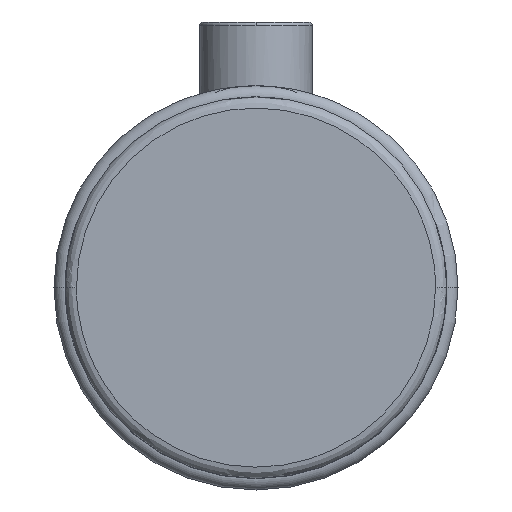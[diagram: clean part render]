
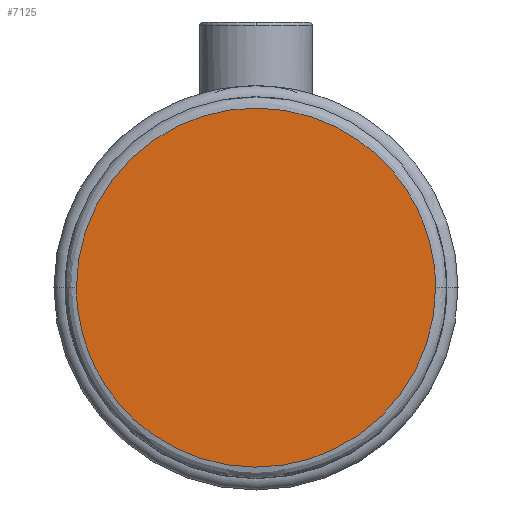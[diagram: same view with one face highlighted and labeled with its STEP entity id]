
A CAD part, top view. The second image highlights one B-rep face of the part: STEP entity #7125.
In plain terms, the highlighted planar face has unit normal (0, 0, 1).
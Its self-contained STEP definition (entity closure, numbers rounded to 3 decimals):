
#1433 = EDGE_LOOP ( 'NONE', ( #5816, #11171 ) ) ;
#1884 = CARTESIAN_POINT ( 'NONE',  ( -47.8, 0., 50. ) ) ;
#1997 = CARTESIAN_POINT ( 'NONE',  ( 47.8, 0., 50. ) ) ;
#2369 = VERTEX_POINT ( 'NONE', #1884 ) ;
#2476 = CARTESIAN_POINT ( 'NONE',  ( 0., 25.4, 50. ) ) ;
#3475 = DIRECTION ( 'NONE',  ( 0., 0., 1. ) ) ;
#3916 =( BOUNDED_CURVE ( )  B_SPLINE_CURVE ( 3, ( #1997, #8029, #11064, #5032 ),
 .UNSPECIFIED., .F., .T. ) 
 B_SPLINE_CURVE_WITH_KNOTS ( ( 4, 4 ),
 ( 0.25, 0.75 ),
 .UNSPECIFIED. ) 
 CURVE ( )  GEOMETRIC_REPRESENTATION_ITEM ( )  RATIONAL_B_SPLINE_CURVE ( ( 1., 0.333, 0.333, 1. ) ) 
 REPRESENTATION_ITEM ( '' )  );
#4358 = PLANE ( 'NONE',  #10416 ) ;
#4813 = CARTESIAN_POINT ( 'NONE',  ( 47.8, 0., 50. ) ) ;
#5032 = CARTESIAN_POINT ( 'NONE',  ( -47.8, 0., 50. ) ) ;
#5341 = EDGE_CURVE ( 'NONE', #10412, #2369, #3916, .T. ) ;
#5816 = ORIENTED_EDGE ( 'NONE', *, *, #5341, .F. ) ;
#6780 = CARTESIAN_POINT ( 'NONE',  ( -47.8, 95.6, 50. ) ) ;
#7125 = ADVANCED_FACE ( 'NONE', ( #10009 ), #4358, .T. ) ;
#8029 = CARTESIAN_POINT ( 'NONE',  ( 47.8, -95.6, 50. ) ) ;
#8115 =( BOUNDED_CURVE ( )  B_SPLINE_CURVE ( 3, ( #9825, #6780, #10836, #4813 ),
 .UNSPECIFIED., .F., .T. ) 
 B_SPLINE_CURVE_WITH_KNOTS ( ( 4, 4 ),
 ( 0.75, 1.25 ),
 .UNSPECIFIED. ) 
 CURVE ( )  GEOMETRIC_REPRESENTATION_ITEM ( )  RATIONAL_B_SPLINE_CURVE ( ( 1., 0.333, 0.333, 1. ) ) 
 REPRESENTATION_ITEM ( '' )  );
#8552 = EDGE_CURVE ( 'NONE', #2369, #10412, #8115, .T. ) ;
#9825 = CARTESIAN_POINT ( 'NONE',  ( -47.8, 0., 50. ) ) ;
#10009 = FACE_OUTER_BOUND ( 'NONE', #1433, .T. ) ;
#10412 = VERTEX_POINT ( 'NONE', #10800 ) ;
#10416 = AXIS2_PLACEMENT_3D ( 'NONE', #2476, #3475, #10523 ) ;
#10523 = DIRECTION ( 'NONE',  ( 0., -1., 0. ) ) ;
#10800 = CARTESIAN_POINT ( 'NONE',  ( 47.8, 0., 50. ) ) ;
#10836 = CARTESIAN_POINT ( 'NONE',  ( 47.8, 95.6, 50. ) ) ;
#11064 = CARTESIAN_POINT ( 'NONE',  ( -47.8, -95.6, 50. ) ) ;
#11171 = ORIENTED_EDGE ( 'NONE', *, *, #8552, .F. ) ;
